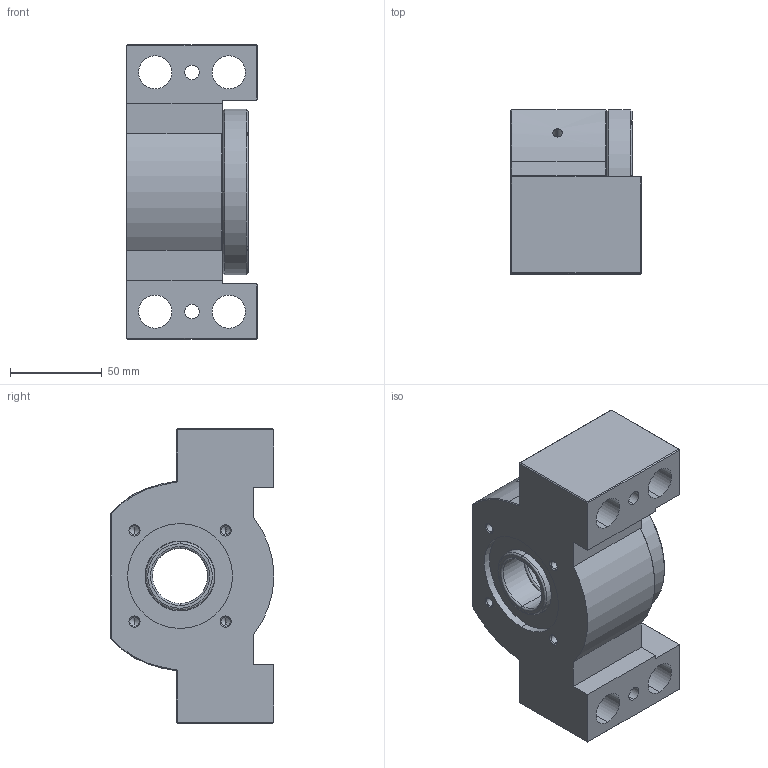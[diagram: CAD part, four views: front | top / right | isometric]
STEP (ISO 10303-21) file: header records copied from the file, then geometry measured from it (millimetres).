
FILE_DESCRIPTION (( 'STEP AP203' ), '1' );
FILE_NAME ('SBK30DF²Õ¦X.STEP', '2010-08-13T12:09:05', ( '' ), ( '' ), 'SwSTEP 2.0', 'SolidWorks 2008', '' );
FILE_SCHEMA (( 'CONFIG_CONTROL_DESIGN' ));
Length unit declared in the file: millimetre
Products named in the file (1): SBK30DF組合
Bounding box: 71 x 89 x 160 mm (x, y, z)
Volume: 562981.2 mm3; surface area: 145282.3 mm2
Topology: 46 solids, 46 shells, 476 faces, 1162 edges, 704 vertices
Faces by surface type: cylinder 145, cone 133, plane 88, sphere 72, torus 38
Entity records: 12741 total; most frequent: DIRECTION 2433, CARTESIAN_POINT 2252, ORIENTED_EDGE 1924, AXIS2_PLACEMENT_3D 1024, EDGE_CURVE 962, VERTEX_POINT 596, CIRCLE 547, EDGE_LOOP 540
